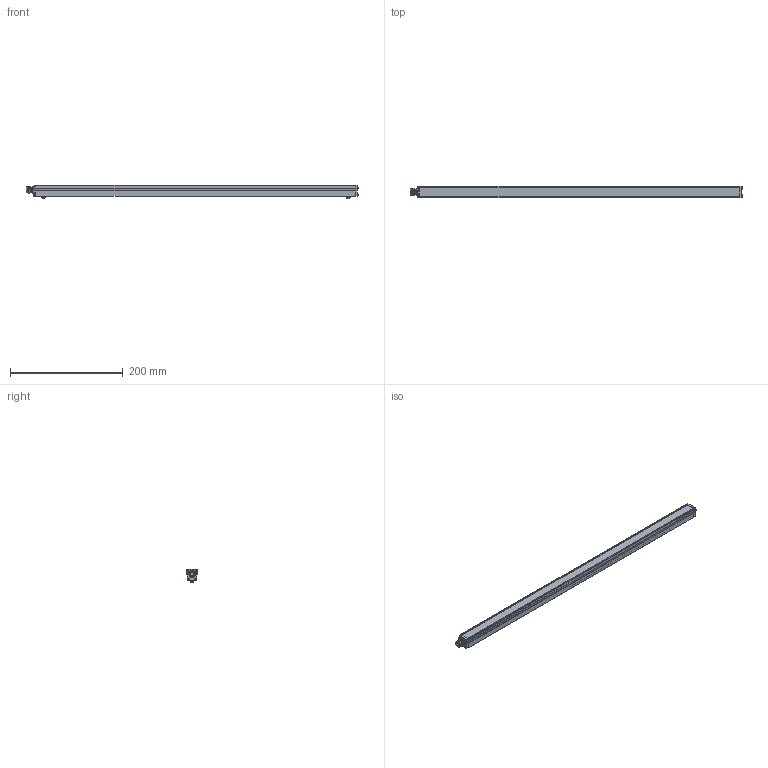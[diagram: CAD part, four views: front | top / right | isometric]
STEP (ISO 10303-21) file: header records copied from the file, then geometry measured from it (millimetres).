
FILE_DESCRIPTION (( 'STEP AP214' ), '1' );
FILE_NAME ('AL126 _NONSEALED__AL12622.stp', '2021-04-29T14:25:11', ( '' ), ( '' ), 'SwSTEP 2.0', 'SolidWorks 2018', '' );
FILE_SCHEMA (( 'AUTOMOTIVE_DESIGN' ));
Length unit declared in the file: inch
Products named in the file (15): 090875; 090889-XX_090889-22; 10mm Label (116 126)_Default<As Machined>; 10mm Ai; 10mm Advanced illumination; 093469_093469; HN-M4_90592A016; 091052 (116 126); 093474_093474; AL126 _NONSEALED__AL12622; BH-M4x6; 090876; 10mm Swish_Default<As Machined>; 091064_Model_Dome Fittings_Thread Type and Size(Dome)_M10 x 1.5_Hazardous Location-Explosive Proof(ATEX and EExe Versions)_No_; 090877-XX_090877-22
Assembly tree (24 placements, depth 3):
  AL126 _NONSEALED__AL12622
    090889-XX_090889-22
    090877-XX_090877-22
    090875
    090876
    093474_093474  x8
    093469_093469  x2
    091064_Model_Dome Fittings_Thread Type and Size(Dome)_M10 x 1.5_Hazardous Location-Explosive Proof(ATEX and EExe Versions)_No_
    HN-M4_90592A016  x2
    BH-M4x6  x2
    091052 (116 126)
      10mm Label (116 126)_Default<As Machined>
      10mm Ai
      10mm Swish_Default<As Machined>
      10mm Advanced illumination
Bounding box: 587.93 x 20.02 x 24.1 mm (x, y, z)
Volume: 79114.9 mm3; surface area: 113137.6 mm2
Topology: 48 solids, 48 shells, 1877 faces, 4840 edges, 3010 vertices
Faces by surface type: cylinder 934, plane 401, cone 362, bspline 120, torus 60
Entity records: 30293 total; most frequent: CARTESIAN_POINT 10456, ORIENTED_EDGE 4076, DIRECTION 3580, EDGE_CURVE 2038, VERTEX_POINT 1298, AXIS2_PLACEMENT_3D 1276, LINE 1028, VECTOR 1028
